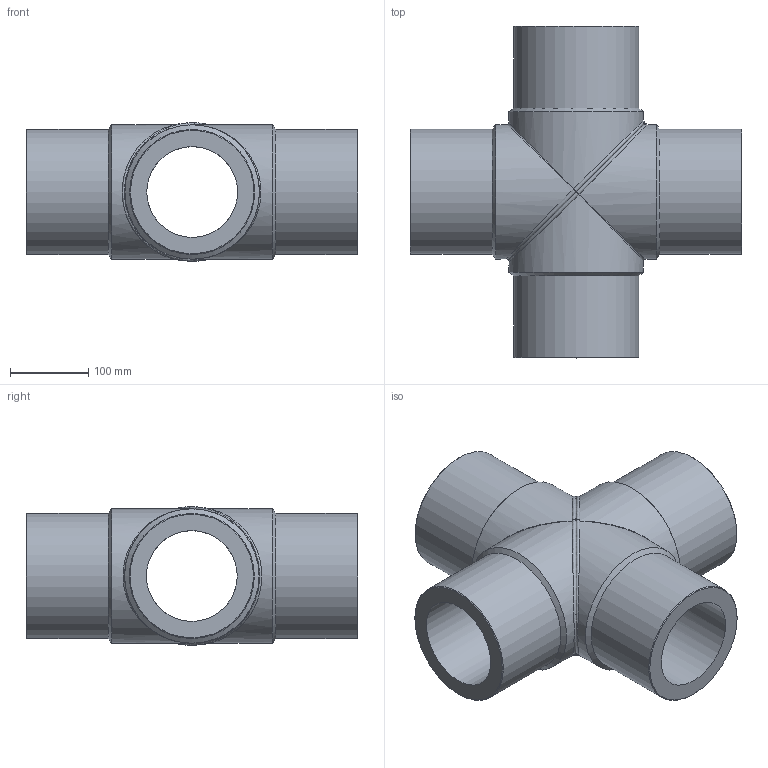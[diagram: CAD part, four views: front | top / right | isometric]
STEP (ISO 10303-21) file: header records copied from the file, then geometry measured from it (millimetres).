
FILE_DESCRIPTION(/* description */ ('Unknown'),/* implementation_level */ '2;1');
FILE_NAME(/* name */ 'CRP160H',/* time_stamp */ '2022-07-08T14:47:01+02:00',/* author */ ('Unknown'),/* organization */ ('Unknown'),/* preprocessor_version */ 'ST-DEVELOPER v18.102',/* originating_system */ 'Solid Edge',/* authorisation */ 'Unknown');
FILE_SCHEMA (('AUTOMOTIVE_DESIGN {1 0 10303 214 3 1 1}'));
Length unit declared in the file: millimetre
Products named in the file (3): CRP160H; CRP160H_mir
Assembly tree (2 placements, depth 2):
  CRP160H
    CRP160H
    CRP160H_mir
Bounding box: 424.5 x 424.5 x 176.99 mm (x, y, z)
Volume: 7038695 mm3; surface area: 660584.6 mm2
Topology: 2 solids, 2 shells, 32 faces, 90 edges, 60 vertices
Faces by surface type: cylinder 12, cone 8, plane 6, bspline 6
Full cylindrical faces by diameter (mm): 116.2 x4, 160 x4, 172 x4
Entity records: 3193 total; most frequent: CARTESIAN_POINT 2465, DIRECTION 126, ORIENTED_EDGE 120, AXIS2_PLACEMENT_3D 63, EDGE_CURVE 60, EDGE_LOOP 58, FACE_BOUND 58, VERTEX_POINT 50
